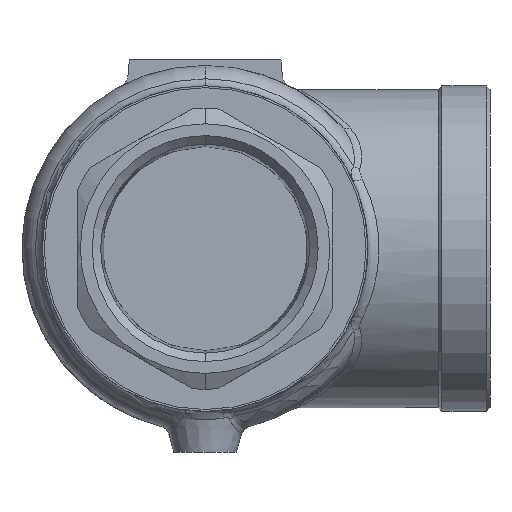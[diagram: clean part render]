
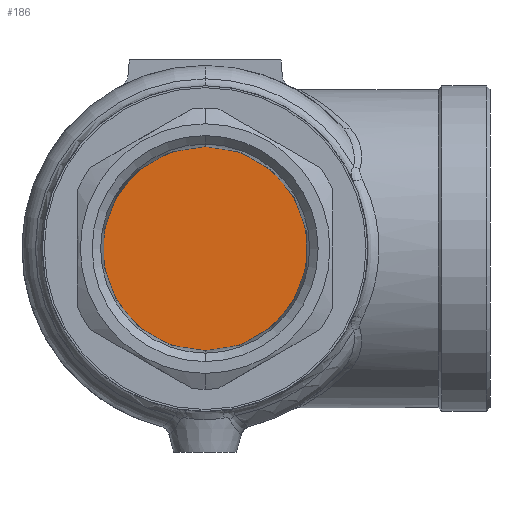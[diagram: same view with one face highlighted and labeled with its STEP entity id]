
A CAD part, front view. The second image highlights one B-rep face of the part: STEP entity #186.
In plain terms, the highlighted planar face has unit normal (0, -1, 0).
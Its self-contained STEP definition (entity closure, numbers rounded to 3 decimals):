
#59 = DIRECTION ( 'NONE',  ( 0., 0., 1. ) ) ;
#66 = AXIS2_PLACEMENT_3D ( 'NONE', #4345, #1866, #59 ) ;
#186 = ADVANCED_FACE ( 'NONE', ( #2633 ), #2237, .F. ) ;
#359 = CIRCLE ( 'NONE', #2234, 27.6 ) ;
#537 = CIRCLE ( 'NONE', #1947, 27.6 ) ;
#653 = CARTESIAN_POINT ( 'NONE',  ( 0., -57., 0. ) ) ;
#710 = CARTESIAN_POINT ( 'NONE',  ( 0., -57., 0. ) ) ;
#1439 = DIRECTION ( 'NONE',  ( 0., 1., 0. ) ) ;
#1866 = DIRECTION ( 'NONE',  ( 0., 1., 0. ) ) ;
#1947 = AXIS2_PLACEMENT_3D ( 'NONE', #710, #1439, #3146 ) ;
#2016 = ORIENTED_EDGE ( 'NONE', *, *, #2478, .F. ) ;
#2234 = AXIS2_PLACEMENT_3D ( 'NONE', #653, #2747, #3223 ) ;
#2237 = PLANE ( 'NONE',  #66 ) ;
#2286 = EDGE_LOOP ( 'NONE', ( #2016, #3116 ) ) ;
#2478 = EDGE_CURVE ( 'NONE', #5328, #4518, #537, .T. ) ;
#2633 = FACE_OUTER_BOUND ( 'NONE', #2286, .T. ) ;
#2747 = DIRECTION ( 'NONE',  ( 0., 1., 0. ) ) ;
#3116 = ORIENTED_EDGE ( 'NONE', *, *, #4076, .F. ) ;
#3146 = DIRECTION ( 'NONE',  ( 0., 0., 1. ) ) ;
#3223 = DIRECTION ( 'NONE',  ( 0., 0., 1. ) ) ;
#4076 = EDGE_CURVE ( 'NONE', #4518, #5328, #359, .T. ) ;
#4345 = CARTESIAN_POINT ( 'NONE',  ( -27.6, -57., 0. ) ) ;
#4420 = CARTESIAN_POINT ( 'NONE',  ( 0., -57., -27.6 ) ) ;
#4518 = VERTEX_POINT ( 'NONE', #5158 ) ;
#5158 = CARTESIAN_POINT ( 'NONE',  ( 0., -57., 27.6 ) ) ;
#5328 = VERTEX_POINT ( 'NONE', #4420 ) ;
